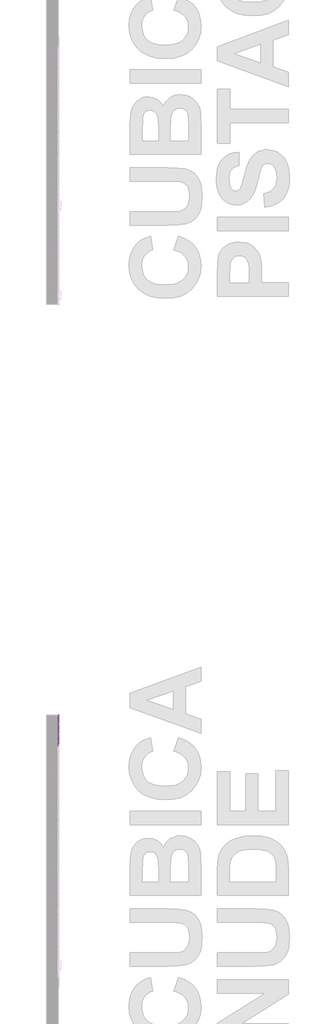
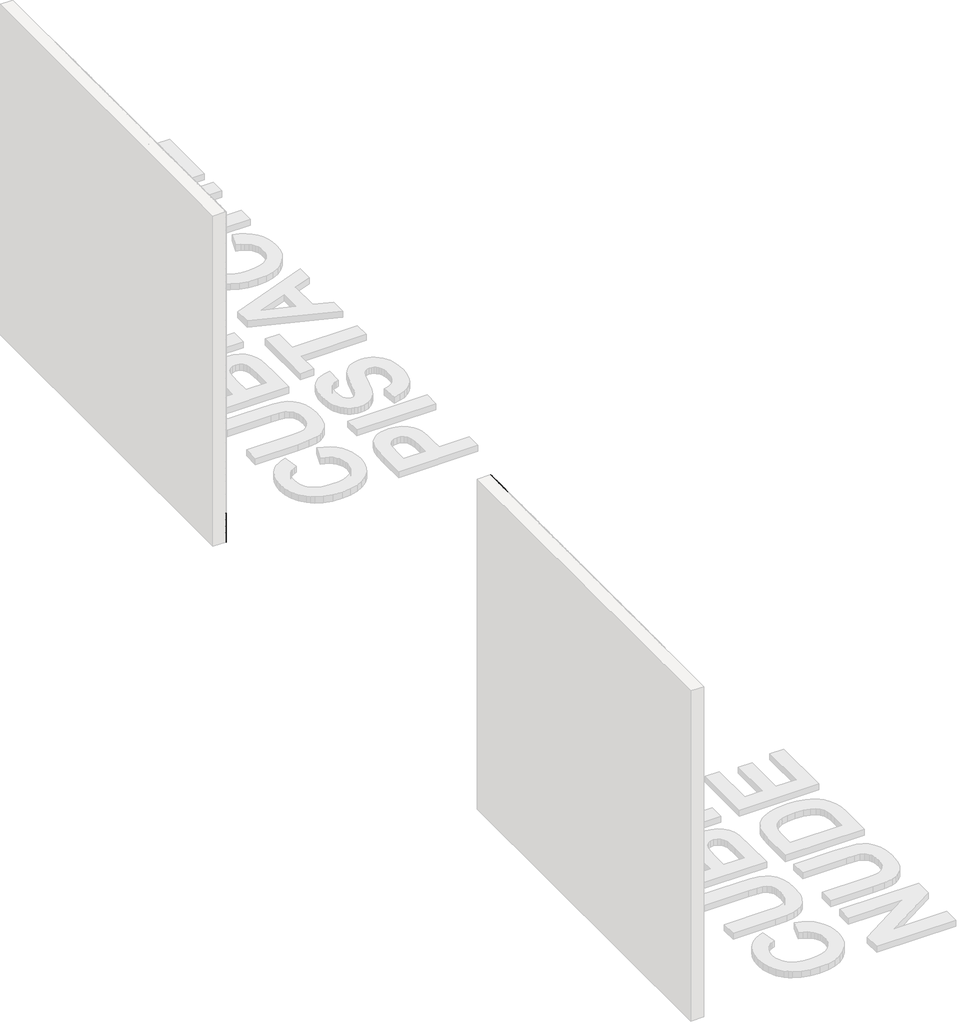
# One storey, part 73 of 121: 141 proxies.
"""IFC4 building model written with IfcOpenShell, lengths in millimetres."""

from ifc_helpers import new_model, si_unit, origin, place, context, project, spatial, transform, mapped, element, save
from components import generic_models_b2b2c5c1, generic_models_9bf73f6f, generic_models_5d175859, generic_models_7dea52c4, generic_models_3c04e8e5, generic_models_61989c10, generic_models_336a48c1, generic_models_65d4feed, generic_models_3c364290, generic_models_b212a934, generic_models_b652511d, generic_models_39246dda, generic_models_45888c4d, generic_models_021229c9, generic_models_95f85f1d

model = new_model("IFC4")

# Units and contexts
model_context = context("Model", 3, world=origin())
ifc_project = project(units=[si_unit("LENGTHUNIT", "METRE", prefix="MILLI")], contexts=[model_context])

# Site, building, storey
site = spatial("IfcSite", under=ifc_project)
building = spatial("IfcBuilding", under=site)
storey = spatial("IfcBuildingStorey", under=building, Name="PORTOBELLO - SHOWROOM", Elevation=0.0)

# Proxies
placement = place(None, origin())
generic_models_shape = generic_models_b2b2c5c1(model_context)
element("IfcBuildingElementProxy", 1, Name="PBSHOP - CUBICA NUDE 4,8X8,3 : CUBICA NUDE - POSIÇÃO 01", ObjectType="PBSHOP - CUBICA NUDE 4,8X8,3 : CUBICA NUDE - POSIÇÃO 01", at=placement, inside=storey, context=model_context, shape_type="MappedRepresentation", body=[
    mapped(generic_models_shape, transform((150369.5341846, 9076.3061883, 1697.0495727), x_axis=(0.0, 1.0, 0.0), y_axis=(0.0, 0.0, 1.0), z_axis=(1.0, 0.0, 0.0))),
])
element("IfcBuildingElementProxy", 2, Name="PBSHOP - CUBICA NUDE 4,8X8,3 : CUBICA NUDE - POSIÇÃO 01", ObjectType="PBSHOP - CUBICA NUDE 4,8X8,3 : CUBICA NUDE - POSIÇÃO 01", at=placement, inside=storey, context=model_context, shape_type="MappedRepresentation", body=[
    mapped(generic_models_shape, transform((150369.5341846, 9167.1454575, 1697.0495727), x_axis=(0.0, 1.0, 0.0), y_axis=(0.0, 0.0, 1.0), z_axis=(1.0, 0.0, 0.0))),
])
element("IfcBuildingElementProxy", 3, Name="PBSHOP - CUBICA NUDE 4,8X8,3 : CUBICA NUDE - POSIÇÃO 01", ObjectType="PBSHOP - CUBICA NUDE 4,8X8,3 : CUBICA NUDE - POSIÇÃO 01", at=placement, inside=storey, context=model_context, shape_type="MappedRepresentation", body=[
    mapped(generic_models_shape, transform((150369.5341846, 9030.8865536, 1775.984211), x_axis=(0.0, 1.0, 0.0), y_axis=(0.0, 0.0, 1.0), z_axis=(1.0, 0.0, 0.0))),
])
element("IfcBuildingElementProxy", 4, Name="PBSHOP - CUBICA NUDE 4,8X8,3 : CUBICA NUDE - POSIÇÃO 01", ObjectType="PBSHOP - CUBICA NUDE 4,8X8,3 : CUBICA NUDE - POSIÇÃO 01", at=placement, inside=storey, context=model_context, shape_type="MappedRepresentation", body=[
    mapped(generic_models_shape, transform((150369.5341846, 9121.7258229, 1775.984211), x_axis=(0.0, 1.0, 0.0), y_axis=(0.0, 0.0, 1.0), z_axis=(1.0, 0.0, 0.0))),
])
element("IfcBuildingElementProxy", 5, Name="PBSHOP - CUBICA NUDE 4,8X8,3 : CUBICA NUDE - POSIÇÃO 01", ObjectType="PBSHOP - CUBICA NUDE 4,8X8,3 : CUBICA NUDE - POSIÇÃO 01", at=placement, inside=storey, context=model_context, shape_type="MappedRepresentation", body=[
    mapped(generic_models_shape, transform((150369.5341846, 9076.3061883, 1854.9188494), x_axis=(0.0, 1.0, 0.0), y_axis=(0.0, 0.0, 1.0), z_axis=(1.0, 0.0, 0.0))),
])
element("IfcBuildingElementProxy", 6, Name="PBSHOP - CUBICA NUDE 4,8X8,3 : CUBICA NUDE - POSIÇÃO 01", ObjectType="PBSHOP - CUBICA NUDE 4,8X8,3 : CUBICA NUDE - POSIÇÃO 01", at=placement, inside=storey, context=model_context, shape_type="MappedRepresentation", body=[
    mapped(generic_models_shape, transform((150369.5341846, 9167.1454575, 1854.9188494), x_axis=(0.0, 1.0, 0.0), y_axis=(0.0, 0.0, 1.0), z_axis=(1.0, 0.0, 0.0))),
])
element("IfcBuildingElementProxy", 7, Name="PBSHOP - CUBICA NUDE 4,8X8,3 : CUBICA NUDE - POSIÇÃO 01", ObjectType="PBSHOP - CUBICA NUDE 4,8X8,3 : CUBICA NUDE - POSIÇÃO 01", at=placement, inside=storey, context=model_context, shape_type="MappedRepresentation", body=[
    mapped(generic_models_shape, transform((150369.5341846, 9030.8865536, 1933.8534878), x_axis=(0.0, 1.0, 0.0), y_axis=(0.0, 0.0, 1.0), z_axis=(1.0, 0.0, 0.0))),
])
element("IfcBuildingElementProxy", 8, Name="PBSHOP - CUBICA NUDE 4,8X8,3 : CUBICA NUDE - POSIÇÃO 01", ObjectType="PBSHOP - CUBICA NUDE 4,8X8,3 : CUBICA NUDE - POSIÇÃO 01", at=placement, inside=storey, context=model_context, shape_type="MappedRepresentation", body=[
    mapped(generic_models_shape, transform((150369.5341846, 9121.7258229, 1933.8534878), x_axis=(0.0, 1.0, 0.0), y_axis=(0.0, 0.0, 1.0), z_axis=(1.0, 0.0, 0.0))),
])
element("IfcBuildingElementProxy", 9, Name="PBSHOP - CUBICA NUDE 4,8X8,3 : CUBICA NUDE - POSIÇÃO 01", ObjectType="PBSHOP - CUBICA NUDE 4,8X8,3 : CUBICA NUDE - POSIÇÃO 01", at=placement, inside=storey, context=model_context, shape_type="MappedRepresentation", body=[
    mapped(generic_models_shape, transform((150369.5341846, 9076.3061883, 2012.7881262), x_axis=(0.0, 1.0, 0.0), y_axis=(0.0, 0.0, 1.0), z_axis=(1.0, 0.0, 0.0))),
])
element("IfcBuildingElementProxy", 10, Name="PBSHOP - CUBICA NUDE 4,8X8,3 : CUBICA NUDE - POSIÇÃO 01", ObjectType="PBSHOP - CUBICA NUDE 4,8X8,3 : CUBICA NUDE - POSIÇÃO 01", at=placement, inside=storey, context=model_context, shape_type="MappedRepresentation", body=[
    mapped(generic_models_shape, transform((150369.5341846, 9167.1454575, 2012.7881262), x_axis=(0.0, 1.0, 0.0), y_axis=(0.0, 0.0, 1.0), z_axis=(1.0, 0.0, 0.0))),
])
element("IfcBuildingElementProxy", 11, Name="PBSHOP - CUBICA NUDE 4,8X8,3 : CUBICA NUDE - POSIÇÃO 01", ObjectType="PBSHOP - CUBICA NUDE 4,8X8,3 : CUBICA NUDE - POSIÇÃO 01", at=placement, inside=storey, context=model_context, shape_type="MappedRepresentation", body=[
    mapped(generic_models_shape, transform((150369.5341846, 9030.8865536, 2091.7227645), x_axis=(0.0, 1.0, 0.0), y_axis=(0.0, 0.0, 1.0), z_axis=(1.0, 0.0, 0.0))),
])
element("IfcBuildingElementProxy", 12, Name="PBSHOP - CUBICA NUDE 4,8X8,3 : CUBICA NUDE - POSIÇÃO 01", ObjectType="PBSHOP - CUBICA NUDE 4,8X8,3 : CUBICA NUDE - POSIÇÃO 01", at=placement, inside=storey, context=model_context, shape_type="MappedRepresentation", body=[
    mapped(generic_models_shape, transform((150369.5341846, 9121.7258229, 2091.7227645), x_axis=(0.0, 1.0, 0.0), y_axis=(0.0, 0.0, 1.0), z_axis=(1.0, 0.0, 0.0))),
])
element("IfcBuildingElementProxy", 13, Name="PBSHOP - CUBICA NUDE 4,8X8,3 : CUBICA NUDE - POSIÇÃO 01", ObjectType="PBSHOP - CUBICA NUDE 4,8X8,3 : CUBICA NUDE - POSIÇÃO 01", at=placement, inside=storey, context=model_context, shape_type="MappedRepresentation", body=[
    mapped(generic_models_shape, transform((150369.5341846, 9076.3061883, 2170.6574029), x_axis=(0.0, 1.0, 0.0), y_axis=(0.0, 0.0, 1.0), z_axis=(1.0, 0.0, 0.0))),
])
element("IfcBuildingElementProxy", 14, Name="PBSHOP - CUBICA NUDE 4,8X8,3 : CUBICA NUDE - POSIÇÃO 01", ObjectType="PBSHOP - CUBICA NUDE 4,8X8,3 : CUBICA NUDE - POSIÇÃO 01", at=placement, inside=storey, context=model_context, shape_type="MappedRepresentation", body=[
    mapped(generic_models_shape, transform((150369.5341846, 9167.1454575, 2170.6574029), x_axis=(0.0, 1.0, 0.0), y_axis=(0.0, 0.0, 1.0), z_axis=(1.0, 0.0, 0.0))),
])
element("IfcBuildingElementProxy", 15, Name="PBSHOP - CUBICA NUDE 4,8X8,3 : CUBICA NUDE - POSIÇÃO 01", ObjectType="PBSHOP - CUBICA NUDE 4,8X8,3 : CUBICA NUDE - POSIÇÃO 01", at=placement, inside=storey, context=model_context, shape_type="MappedRepresentation", body=[
    mapped(generic_models_shape, transform((150369.5341846, 9030.8865536, 2249.5920413), x_axis=(0.0, 1.0, 0.0), y_axis=(0.0, 0.0, 1.0), z_axis=(1.0, 0.0, 0.0))),
])
element("IfcBuildingElementProxy", 16, Name="PBSHOP - CUBICA NUDE 4,8X8,3 : CUBICA NUDE - POSIÇÃO 01", ObjectType="PBSHOP - CUBICA NUDE 4,8X8,3 : CUBICA NUDE - POSIÇÃO 01", at=placement, inside=storey, context=model_context, shape_type="MappedRepresentation", body=[
    mapped(generic_models_shape, transform((150369.5341846, 9121.7258229, 2249.5920413), x_axis=(0.0, 1.0, 0.0), y_axis=(0.0, 0.0, 1.0), z_axis=(1.0, 0.0, 0.0))),
])
element("IfcBuildingElementProxy", 17, Name="PBSHOP - CUBICA NUDE 4,8X8,3 : CUBICA NUDE - POSIÇÃO 01", ObjectType="PBSHOP - CUBICA NUDE 4,8X8,3 : CUBICA NUDE - POSIÇÃO 01", at=placement, inside=storey, context=model_context, shape_type="MappedRepresentation", body=[
    mapped(generic_models_shape, transform((150369.5341846, 9076.3061883, 2328.5266797), x_axis=(0.0, 1.0, 0.0), y_axis=(0.0, 0.0, 1.0), z_axis=(1.0, 0.0, 0.0))),
])
element("IfcBuildingElementProxy", 18, Name="PBSHOP - CUBICA NUDE 4,8X8,3 : CUBICA NUDE - POSIÇÃO 01", ObjectType="PBSHOP - CUBICA NUDE 4,8X8,3 : CUBICA NUDE - POSIÇÃO 01", at=placement, inside=storey, context=model_context, shape_type="MappedRepresentation", body=[
    mapped(generic_models_shape, transform((150369.5341846, 9167.1454575, 2328.5266797), x_axis=(0.0, 1.0, 0.0), y_axis=(0.0, 0.0, 1.0), z_axis=(1.0, 0.0, 0.0))),
])
element("IfcBuildingElementProxy", 19, Name="PBSHOP - CUBICA NUDE 4,8X8,3 : CUBICA NUDE - POSIÇÃO 01", ObjectType="PBSHOP - CUBICA NUDE 4,8X8,3 : CUBICA NUDE - POSIÇÃO 01", at=placement, inside=storey, context=model_context, shape_type="MappedRepresentation", body=[
    mapped(generic_models_shape, transform((150369.5341846, 9030.8865536, 2407.461318), x_axis=(0.0, 1.0, 0.0), y_axis=(0.0, 0.0, 1.0), z_axis=(1.0, 0.0, 0.0))),
])
element("IfcBuildingElementProxy", 20, Name="PBSHOP - CUBICA NUDE 4,8X8,3 : CUBICA NUDE - POSIÇÃO 01", ObjectType="PBSHOP - CUBICA NUDE 4,8X8,3 : CUBICA NUDE - POSIÇÃO 01", at=placement, inside=storey, context=model_context, shape_type="MappedRepresentation", body=[
    mapped(generic_models_shape, transform((150369.5341846, 9121.7258229, 2407.461318), x_axis=(0.0, 1.0, 0.0), y_axis=(0.0, 0.0, 1.0), z_axis=(1.0, 0.0, 0.0))),
])
element("IfcBuildingElementProxy", 21, Name="PBSHOP - CUBICA NUDE 4,8X8,3 : CUBICA NUDE - POSIÇÃO 01", ObjectType="PBSHOP - CUBICA NUDE 4,8X8,3 : CUBICA NUDE - POSIÇÃO 01", at=placement, inside=storey, context=model_context, shape_type="MappedRepresentation", body=[
    mapped(generic_models_shape, transform((150369.5341846, 9076.3061883, 2486.3959564), x_axis=(0.0, 1.0, 0.0), y_axis=(0.0, 0.0, 1.0), z_axis=(1.0, 0.0, 0.0))),
])
element("IfcBuildingElementProxy", 22, Name="PBSHOP - CUBICA NUDE 4,8X8,3 : CUBICA NUDE - POSIÇÃO 01", ObjectType="PBSHOP - CUBICA NUDE 4,8X8,3 : CUBICA NUDE - POSIÇÃO 01", at=placement, inside=storey, context=model_context, shape_type="MappedRepresentation", body=[
    mapped(generic_models_shape, transform((150369.5341846, 9167.1454575, 2486.3959564), x_axis=(0.0, 1.0, 0.0), y_axis=(0.0, 0.0, 1.0), z_axis=(1.0, 0.0, 0.0))),
])
element("IfcBuildingElementProxy", 23, Name="PBSHOP - CUBICA NUDE 4,8X8,3 : CUBICA NUDE - POSIÇÃO 01", ObjectType="PBSHOP - CUBICA NUDE 4,8X8,3 : CUBICA NUDE - POSIÇÃO 01", at=placement, inside=storey, context=model_context, shape_type="MappedRepresentation", body=[
    mapped(generic_models_shape, transform((150369.5341846, 9030.8865536, 2565.3305948), x_axis=(0.0, 1.0, 0.0), y_axis=(0.0, 0.0, 1.0), z_axis=(1.0, 0.0, 0.0))),
])
element("IfcBuildingElementProxy", 24, Name="PBSHOP - CUBICA NUDE 4,8X8,3 : CUBICA NUDE - POSIÇÃO 01", ObjectType="PBSHOP - CUBICA NUDE 4,8X8,3 : CUBICA NUDE - POSIÇÃO 01", at=placement, inside=storey, context=model_context, shape_type="MappedRepresentation", body=[
    mapped(generic_models_shape, transform((150369.5341846, 9121.7258229, 2565.3305948), x_axis=(0.0, 1.0, 0.0), y_axis=(0.0, 0.0, 1.0), z_axis=(1.0, 0.0, 0.0))),
])
element("IfcBuildingElementProxy", 25, Name="PBSHOP - CUBICA NUDE 4,8X8,3 : CUBICA NUDE - POSIÇÃO 01", ObjectType="PBSHOP - CUBICA NUDE 4,8X8,3 : CUBICA NUDE - POSIÇÃO 01", at=placement, inside=storey, context=model_context, shape_type="MappedRepresentation", body=[
    mapped(generic_models_shape, transform((150369.5341846, 9076.3061883, 2644.2652332), x_axis=(0.0, 1.0, 0.0), y_axis=(0.0, 0.0, 1.0), z_axis=(1.0, 0.0, 0.0))),
])
element("IfcBuildingElementProxy", 26, Name="PBSHOP - CUBICA NUDE 4,8X8,3 : CUBICA NUDE - POSIÇÃO 01", ObjectType="PBSHOP - CUBICA NUDE 4,8X8,3 : CUBICA NUDE - POSIÇÃO 01", at=placement, inside=storey, context=model_context, shape_type="MappedRepresentation", body=[
    mapped(generic_models_shape, transform((150369.5341846, 9167.1454575, 2644.2652332), x_axis=(0.0, 1.0, 0.0), y_axis=(0.0, 0.0, 1.0), z_axis=(1.0, 0.0, 0.0))),
])
generic_models_2_shape = generic_models_9bf73f6f(model_context)
element("IfcBuildingElementProxy", 27, Name="PBSHOP - CUBICA NUDE 4,8X8,3 : CUBICA NUDE - POSIÇÃO 03", ObjectType="PBSHOP - CUBICA NUDE 4,8X8,3 : CUBICA NUDE - POSIÇÃO 03", at=placement, inside=storey, context=model_context, shape_type="MappedRepresentation", body=[
    mapped(generic_models_2_shape, transform((150369.5341846, 9099.0181647, 1578.6064047), x_axis=(0.0, 1.0, 0.0), y_axis=(0.0, 0.0, 1.0), z_axis=(1.0, 0.0, 0.0))),
])
element("IfcBuildingElementProxy", 28, Name="PBSHOP - CUBICA NUDE 4,8X8,3 : CUBICA NUDE - POSIÇÃO 03", ObjectType="PBSHOP - CUBICA NUDE 4,8X8,3 : CUBICA NUDE - POSIÇÃO 03", at=placement, inside=storey, context=model_context, shape_type="MappedRepresentation", body=[
    mapped(generic_models_2_shape, transform((150369.5341846, 9053.5985301, 1657.5410431), x_axis=(0.0, 1.0, 0.0), y_axis=(0.0, 0.0, 1.0), z_axis=(1.0, 0.0, 0.0))),
])
element("IfcBuildingElementProxy", 29, Name="PBSHOP - CUBICA NUDE 4,8X8,3 : CUBICA NUDE - POSIÇÃO 03", ObjectType="PBSHOP - CUBICA NUDE 4,8X8,3 : CUBICA NUDE - POSIÇÃO 03", at=placement, inside=storey, context=model_context, shape_type="MappedRepresentation", body=[
    mapped(generic_models_2_shape, transform((150369.5341846, 9144.4377994, 1657.5410431), x_axis=(0.0, 1.0, 0.0), y_axis=(0.0, 0.0, 1.0), z_axis=(1.0, 0.0, 0.0))),
])
element("IfcBuildingElementProxy", 30, Name="PBSHOP - CUBICA NUDE 4,8X8,3 : CUBICA NUDE - POSIÇÃO 03", ObjectType="PBSHOP - CUBICA NUDE 4,8X8,3 : CUBICA NUDE - POSIÇÃO 03", at=placement, inside=storey, context=model_context, shape_type="MappedRepresentation", body=[
    mapped(generic_models_2_shape, transform((150369.5341846, 9008.1788955, 1736.4756814), x_axis=(0.0, 1.0, 0.0), y_axis=(0.0, 0.0, 1.0), z_axis=(1.0, 0.0, 0.0))),
])
element("IfcBuildingElementProxy", 31, Name="PBSHOP - CUBICA NUDE 4,8X8,3 : CUBICA NUDE - POSIÇÃO 03", ObjectType="PBSHOP - CUBICA NUDE 4,8X8,3 : CUBICA NUDE - POSIÇÃO 03", at=placement, inside=storey, context=model_context, shape_type="MappedRepresentation", body=[
    mapped(generic_models_2_shape, transform((150369.5341846, 9099.0181647, 1736.4756814), x_axis=(0.0, 1.0, 0.0), y_axis=(0.0, 0.0, 1.0), z_axis=(1.0, 0.0, 0.0))),
])
element("IfcBuildingElementProxy", 32, Name="PBSHOP - CUBICA NUDE 4,8X8,3 : CUBICA NUDE - POSIÇÃO 03", ObjectType="PBSHOP - CUBICA NUDE 4,8X8,3 : CUBICA NUDE - POSIÇÃO 03", at=placement, inside=storey, context=model_context, shape_type="MappedRepresentation", body=[
    mapped(generic_models_2_shape, transform((150369.5341846, 9053.5985301, 1815.4103198), x_axis=(0.0, 1.0, 0.0), y_axis=(0.0, 0.0, 1.0), z_axis=(1.0, 0.0, 0.0))),
])
element("IfcBuildingElementProxy", 33, Name="PBSHOP - CUBICA NUDE 4,8X8,3 : CUBICA NUDE - POSIÇÃO 03", ObjectType="PBSHOP - CUBICA NUDE 4,8X8,3 : CUBICA NUDE - POSIÇÃO 03", at=placement, inside=storey, context=model_context, shape_type="MappedRepresentation", body=[
    mapped(generic_models_2_shape, transform((150369.5341846, 9144.4377994, 1815.4103198), x_axis=(0.0, 1.0, 0.0), y_axis=(0.0, 0.0, 1.0), z_axis=(1.0, 0.0, 0.0))),
])
element("IfcBuildingElementProxy", 34, Name="PBSHOP - CUBICA NUDE 4,8X8,3 : CUBICA NUDE - POSIÇÃO 03", ObjectType="PBSHOP - CUBICA NUDE 4,8X8,3 : CUBICA NUDE - POSIÇÃO 03", at=placement, inside=storey, context=model_context, shape_type="MappedRepresentation", body=[
    mapped(generic_models_2_shape, transform((150369.5341846, 9008.1788955, 1894.3449582), x_axis=(0.0, 1.0, 0.0), y_axis=(0.0, 0.0, 1.0), z_axis=(1.0, 0.0, 0.0))),
])
element("IfcBuildingElementProxy", 35, Name="PBSHOP - CUBICA NUDE 4,8X8,3 : CUBICA NUDE - POSIÇÃO 03", ObjectType="PBSHOP - CUBICA NUDE 4,8X8,3 : CUBICA NUDE - POSIÇÃO 03", at=placement, inside=storey, context=model_context, shape_type="MappedRepresentation", body=[
    mapped(generic_models_2_shape, transform((150369.5341846, 9099.0181647, 1894.3449582), x_axis=(0.0, 1.0, 0.0), y_axis=(0.0, 0.0, 1.0), z_axis=(1.0, 0.0, 0.0))),
])
element("IfcBuildingElementProxy", 36, Name="PBSHOP - CUBICA NUDE 4,8X8,3 : CUBICA NUDE - POSIÇÃO 03", ObjectType="PBSHOP - CUBICA NUDE 4,8X8,3 : CUBICA NUDE - POSIÇÃO 03", at=placement, inside=storey, context=model_context, shape_type="MappedRepresentation", body=[
    mapped(generic_models_2_shape, transform((150369.5341846, 9053.5985301, 1973.2795966), x_axis=(0.0, 1.0, 0.0), y_axis=(0.0, 0.0, 1.0), z_axis=(1.0, 0.0, 0.0))),
])
element("IfcBuildingElementProxy", 37, Name="PBSHOP - CUBICA NUDE 4,8X8,3 : CUBICA NUDE - POSIÇÃO 03", ObjectType="PBSHOP - CUBICA NUDE 4,8X8,3 : CUBICA NUDE - POSIÇÃO 03", at=placement, inside=storey, context=model_context, shape_type="MappedRepresentation", body=[
    mapped(generic_models_2_shape, transform((150369.5341846, 9144.4377994, 1973.2795966), x_axis=(0.0, 1.0, 0.0), y_axis=(0.0, 0.0, 1.0), z_axis=(1.0, 0.0, 0.0))),
])
element("IfcBuildingElementProxy", 38, Name="PBSHOP - CUBICA NUDE 4,8X8,3 : CUBICA NUDE - POSIÇÃO 03", ObjectType="PBSHOP - CUBICA NUDE 4,8X8,3 : CUBICA NUDE - POSIÇÃO 03", at=placement, inside=storey, context=model_context, shape_type="MappedRepresentation", body=[
    mapped(generic_models_2_shape, transform((150369.5341846, 9008.1788955, 2052.2142349), x_axis=(0.0, 1.0, 0.0), y_axis=(0.0, 0.0, 1.0), z_axis=(1.0, 0.0, 0.0))),
])
element("IfcBuildingElementProxy", 39, Name="PBSHOP - CUBICA NUDE 4,8X8,3 : CUBICA NUDE - POSIÇÃO 03", ObjectType="PBSHOP - CUBICA NUDE 4,8X8,3 : CUBICA NUDE - POSIÇÃO 03", at=placement, inside=storey, context=model_context, shape_type="MappedRepresentation", body=[
    mapped(generic_models_2_shape, transform((150369.5341846, 9099.0181647, 2052.2142349), x_axis=(0.0, 1.0, 0.0), y_axis=(0.0, 0.0, 1.0), z_axis=(1.0, 0.0, 0.0))),
])
element("IfcBuildingElementProxy", 40, Name="PBSHOP - CUBICA NUDE 4,8X8,3 : CUBICA NUDE - POSIÇÃO 03", ObjectType="PBSHOP - CUBICA NUDE 4,8X8,3 : CUBICA NUDE - POSIÇÃO 03", at=placement, inside=storey, context=model_context, shape_type="MappedRepresentation", body=[
    mapped(generic_models_2_shape, transform((150369.5341846, 9053.5985301, 2131.1488733), x_axis=(0.0, 1.0, 0.0), y_axis=(0.0, 0.0, 1.0), z_axis=(1.0, 0.0, 0.0))),
])
element("IfcBuildingElementProxy", 41, Name="PBSHOP - CUBICA NUDE 4,8X8,3 : CUBICA NUDE - POSIÇÃO 03", ObjectType="PBSHOP - CUBICA NUDE 4,8X8,3 : CUBICA NUDE - POSIÇÃO 03", at=placement, inside=storey, context=model_context, shape_type="MappedRepresentation", body=[
    mapped(generic_models_2_shape, transform((150369.5341846, 9144.4377994, 2131.1488733), x_axis=(0.0, 1.0, 0.0), y_axis=(0.0, 0.0, 1.0), z_axis=(1.0, 0.0, 0.0))),
])
element("IfcBuildingElementProxy", 42, Name="PBSHOP - CUBICA NUDE 4,8X8,3 : CUBICA NUDE - POSIÇÃO 03", ObjectType="PBSHOP - CUBICA NUDE 4,8X8,3 : CUBICA NUDE - POSIÇÃO 03", at=placement, inside=storey, context=model_context, shape_type="MappedRepresentation", body=[
    mapped(generic_models_2_shape, transform((150369.5341846, 9008.1788955, 2210.0835117), x_axis=(0.0, 1.0, 0.0), y_axis=(0.0, 0.0, 1.0), z_axis=(1.0, 0.0, 0.0))),
])
element("IfcBuildingElementProxy", 43, Name="PBSHOP - CUBICA NUDE 4,8X8,3 : CUBICA NUDE - POSIÇÃO 03", ObjectType="PBSHOP - CUBICA NUDE 4,8X8,3 : CUBICA NUDE - POSIÇÃO 03", at=placement, inside=storey, context=model_context, shape_type="MappedRepresentation", body=[
    mapped(generic_models_2_shape, transform((150369.5341846, 9099.0181647, 2210.0835117), x_axis=(0.0, 1.0, 0.0), y_axis=(0.0, 0.0, 1.0), z_axis=(1.0, 0.0, 0.0))),
])
element("IfcBuildingElementProxy", 44, Name="PBSHOP - CUBICA NUDE 4,8X8,3 : CUBICA NUDE - POSIÇÃO 03", ObjectType="PBSHOP - CUBICA NUDE 4,8X8,3 : CUBICA NUDE - POSIÇÃO 03", at=placement, inside=storey, context=model_context, shape_type="MappedRepresentation", body=[
    mapped(generic_models_2_shape, transform((150369.5341846, 9053.5985301, 2289.0181501), x_axis=(0.0, 1.0, 0.0), y_axis=(0.0, 0.0, 1.0), z_axis=(1.0, 0.0, 0.0))),
])
element("IfcBuildingElementProxy", 45, Name="PBSHOP - CUBICA NUDE 4,8X8,3 : CUBICA NUDE - POSIÇÃO 03", ObjectType="PBSHOP - CUBICA NUDE 4,8X8,3 : CUBICA NUDE - POSIÇÃO 03", at=placement, inside=storey, context=model_context, shape_type="MappedRepresentation", body=[
    mapped(generic_models_2_shape, transform((150369.5341846, 9144.4377994, 2289.0181501), x_axis=(0.0, 1.0, 0.0), y_axis=(0.0, 0.0, 1.0), z_axis=(1.0, 0.0, 0.0))),
])
element("IfcBuildingElementProxy", 46, Name="PBSHOP - CUBICA NUDE 4,8X8,3 : CUBICA NUDE - POSIÇÃO 03", ObjectType="PBSHOP - CUBICA NUDE 4,8X8,3 : CUBICA NUDE - POSIÇÃO 03", at=placement, inside=storey, context=model_context, shape_type="MappedRepresentation", body=[
    mapped(generic_models_2_shape, transform((150369.5341846, 9008.1788955, 2367.9527884), x_axis=(0.0, 1.0, 0.0), y_axis=(0.0, 0.0, 1.0), z_axis=(1.0, 0.0, 0.0))),
])
element("IfcBuildingElementProxy", 47, Name="PBSHOP - CUBICA NUDE 4,8X8,3 : CUBICA NUDE - POSIÇÃO 03", ObjectType="PBSHOP - CUBICA NUDE 4,8X8,3 : CUBICA NUDE - POSIÇÃO 03", at=placement, inside=storey, context=model_context, shape_type="MappedRepresentation", body=[
    mapped(generic_models_2_shape, transform((150369.5341846, 9099.0181647, 2367.9527884), x_axis=(0.0, 1.0, 0.0), y_axis=(0.0, 0.0, 1.0), z_axis=(1.0, 0.0, 0.0))),
])
element("IfcBuildingElementProxy", 48, Name="PBSHOP - CUBICA NUDE 4,8X8,3 : CUBICA NUDE - POSIÇÃO 03", ObjectType="PBSHOP - CUBICA NUDE 4,8X8,3 : CUBICA NUDE - POSIÇÃO 03", at=placement, inside=storey, context=model_context, shape_type="MappedRepresentation", body=[
    mapped(generic_models_2_shape, transform((150369.5341846, 9053.5985301, 2446.8874268), x_axis=(0.0, 1.0, 0.0), y_axis=(0.0, 0.0, 1.0), z_axis=(1.0, 0.0, 0.0))),
])
element("IfcBuildingElementProxy", 49, Name="PBSHOP - CUBICA NUDE 4,8X8,3 : CUBICA NUDE - POSIÇÃO 03", ObjectType="PBSHOP - CUBICA NUDE 4,8X8,3 : CUBICA NUDE - POSIÇÃO 03", at=placement, inside=storey, context=model_context, shape_type="MappedRepresentation", body=[
    mapped(generic_models_2_shape, transform((150369.5341846, 9144.4377994, 2446.8874268), x_axis=(0.0, 1.0, 0.0), y_axis=(0.0, 0.0, 1.0), z_axis=(1.0, 0.0, 0.0))),
])
element("IfcBuildingElementProxy", 50, Name="PBSHOP - CUBICA NUDE 4,8X8,3 : CUBICA NUDE - POSIÇÃO 03", ObjectType="PBSHOP - CUBICA NUDE 4,8X8,3 : CUBICA NUDE - POSIÇÃO 03", at=placement, inside=storey, context=model_context, shape_type="MappedRepresentation", body=[
    mapped(generic_models_2_shape, transform((150369.5341846, 9008.1788955, 2525.8220652), x_axis=(0.0, 1.0, 0.0), y_axis=(0.0, 0.0, 1.0), z_axis=(1.0, 0.0, 0.0))),
])
element("IfcBuildingElementProxy", 51, Name="PBSHOP - CUBICA NUDE 4,8X8,3 : CUBICA NUDE - POSIÇÃO 03", ObjectType="PBSHOP - CUBICA NUDE 4,8X8,3 : CUBICA NUDE - POSIÇÃO 03", at=placement, inside=storey, context=model_context, shape_type="MappedRepresentation", body=[
    mapped(generic_models_2_shape, transform((150369.5341846, 9099.0181647, 2525.8220652), x_axis=(0.0, 1.0, 0.0), y_axis=(0.0, 0.0, 1.0), z_axis=(1.0, 0.0, 0.0))),
])
element("IfcBuildingElementProxy", 52, Name="PBSHOP - CUBICA NUDE 4,8X8,3 : CUBICA NUDE - POSIÇÃO 03", ObjectType="PBSHOP - CUBICA NUDE 4,8X8,3 : CUBICA NUDE - POSIÇÃO 03", at=placement, inside=storey, context=model_context, shape_type="MappedRepresentation", body=[
    mapped(generic_models_2_shape, transform((150369.5341846, 9053.5985301, 2604.7567035), x_axis=(0.0, 1.0, 0.0), y_axis=(0.0, 0.0, 1.0), z_axis=(1.0, 0.0, 0.0))),
])
element("IfcBuildingElementProxy", 53, Name="PBSHOP - CUBICA NUDE 4,8X8,3 : CUBICA NUDE - POSIÇÃO 03", ObjectType="PBSHOP - CUBICA NUDE 4,8X8,3 : CUBICA NUDE - POSIÇÃO 03", at=placement, inside=storey, context=model_context, shape_type="MappedRepresentation", body=[
    mapped(generic_models_2_shape, transform((150369.5341846, 9144.4377994, 2604.7567035), x_axis=(0.0, 1.0, 0.0), y_axis=(0.0, 0.0, 1.0), z_axis=(1.0, 0.0, 0.0))),
])
element("IfcBuildingElementProxy", 54, Name="PBSHOP - CUBICA PISTACHE 4,8X8,3 : CUBICA PISTACHE - POSIÇÃO 01", ObjectType="PBSHOP - CUBICA PISTACHE 4,8X8,3 : CUBICA PISTACHE - POSIÇÃO 01", at=placement, inside=storey, context=model_context, shape_type="MappedRepresentation", body=[
    mapped(generic_models_shape, transform((150369.5341846, 12796.5477456, 39.4221668), x_axis=(0.0, 1.0, 0.0), y_axis=(0.0, 0.0, 1.0), z_axis=(1.0, 0.0, 0.0))),
])
element("IfcBuildingElementProxy", 55, Name="PBSHOP - CUBICA PISTACHE 4,8X8,3 : CUBICA PISTACHE - POSIÇÃO 01", ObjectType="PBSHOP - CUBICA PISTACHE 4,8X8,3 : CUBICA PISTACHE - POSIÇÃO 01", at=placement, inside=storey, context=model_context, shape_type="MappedRepresentation", body=[
    mapped(generic_models_shape, transform((150369.5341846, 12887.3870148, 39.4221668), x_axis=(0.0, 1.0, 0.0), y_axis=(0.0, 0.0, 1.0), z_axis=(1.0, 0.0, 0.0))),
])
element("IfcBuildingElementProxy", 56, Name="PBSHOP - CUBICA PISTACHE 4,8X8,3 : CUBICA PISTACHE - POSIÇÃO 01", ObjectType="PBSHOP - CUBICA PISTACHE 4,8X8,3 : CUBICA PISTACHE - POSIÇÃO 01", at=placement, inside=storey, context=model_context, shape_type="MappedRepresentation", body=[
    mapped(generic_models_shape, transform((150369.5341846, 12978.2262841, 39.4221668), x_axis=(0.0, 1.0, 0.0), y_axis=(0.0, 0.0, 1.0), z_axis=(1.0, 0.0, 0.0))),
])
element("IfcBuildingElementProxy", 57, Name="PBSHOP - CUBICA PISTACHE 4,8X8,3 : CUBICA PISTACHE - POSIÇÃO 01", ObjectType="PBSHOP - CUBICA PISTACHE 4,8X8,3 : CUBICA PISTACHE - POSIÇÃO 01", at=placement, inside=storey, context=model_context, shape_type="MappedRepresentation", body=[
    mapped(generic_models_shape, transform((150369.5341846, 12841.9673802, 118.3568052), x_axis=(0.0, 1.0, 0.0), y_axis=(0.0, 0.0, 1.0), z_axis=(1.0, 0.0, 0.0))),
])
element("IfcBuildingElementProxy", 58, Name="PBSHOP - CUBICA PISTACHE 4,8X8,3 : CUBICA PISTACHE - POSIÇÃO 01", ObjectType="PBSHOP - CUBICA PISTACHE 4,8X8,3 : CUBICA PISTACHE - POSIÇÃO 01", at=placement, inside=storey, context=model_context, shape_type="MappedRepresentation", body=[
    mapped(generic_models_shape, transform((150369.5341846, 12932.8066494, 118.3568052), x_axis=(0.0, 1.0, 0.0), y_axis=(0.0, 0.0, 1.0), z_axis=(1.0, 0.0, 0.0))),
])
element("IfcBuildingElementProxy", 59, Name="PBSHOP - CUBICA PISTACHE 4,8X8,3 : CUBICA PISTACHE - POSIÇÃO 01", ObjectType="PBSHOP - CUBICA PISTACHE 4,8X8,3 : CUBICA PISTACHE - POSIÇÃO 01", at=placement, inside=storey, context=model_context, shape_type="MappedRepresentation", body=[
    mapped(generic_models_shape, transform((150369.5341846, 12796.5477456, 197.2914436), x_axis=(0.0, 1.0, 0.0), y_axis=(0.0, 0.0, 1.0), z_axis=(1.0, 0.0, 0.0))),
])
element("IfcBuildingElementProxy", 60, Name="PBSHOP - CUBICA PISTACHE 4,8X8,3 : CUBICA PISTACHE - POSIÇÃO 01", ObjectType="PBSHOP - CUBICA PISTACHE 4,8X8,3 : CUBICA PISTACHE - POSIÇÃO 01", at=placement, inside=storey, context=model_context, shape_type="MappedRepresentation", body=[
    mapped(generic_models_shape, transform((150369.5341846, 12887.3870148, 197.2914436), x_axis=(0.0, 1.0, 0.0), y_axis=(0.0, 0.0, 1.0), z_axis=(1.0, 0.0, 0.0))),
])
element("IfcBuildingElementProxy", 61, Name="PBSHOP - CUBICA PISTACHE 4,8X8,3 : CUBICA PISTACHE - POSIÇÃO 01", ObjectType="PBSHOP - CUBICA PISTACHE 4,8X8,3 : CUBICA PISTACHE - POSIÇÃO 01", at=placement, inside=storey, context=model_context, shape_type="MappedRepresentation", body=[
    mapped(generic_models_shape, transform((150369.5341846, 12978.2262841, 197.2914436), x_axis=(0.0, 1.0, 0.0), y_axis=(0.0, 0.0, 1.0), z_axis=(1.0, 0.0, 0.0))),
])
element("IfcBuildingElementProxy", 62, Name="PBSHOP - CUBICA PISTACHE 4,8X8,3 : CUBICA PISTACHE - POSIÇÃO 01", ObjectType="PBSHOP - CUBICA PISTACHE 4,8X8,3 : CUBICA PISTACHE - POSIÇÃO 01", at=placement, inside=storey, context=model_context, shape_type="MappedRepresentation", body=[
    mapped(generic_models_shape, transform((150369.5341846, 12841.9673802, 276.2260819), x_axis=(0.0, 1.0, 0.0), y_axis=(0.0, 0.0, 1.0), z_axis=(1.0, 0.0, 0.0))),
])
element("IfcBuildingElementProxy", 63, Name="PBSHOP - CUBICA PISTACHE 4,8X8,3 : CUBICA PISTACHE - POSIÇÃO 01", ObjectType="PBSHOP - CUBICA PISTACHE 4,8X8,3 : CUBICA PISTACHE - POSIÇÃO 01", at=placement, inside=storey, context=model_context, shape_type="MappedRepresentation", body=[
    mapped(generic_models_shape, transform((150369.5341846, 12932.8066494, 276.2260819), x_axis=(0.0, 1.0, 0.0), y_axis=(0.0, 0.0, 1.0), z_axis=(1.0, 0.0, 0.0))),
])
element("IfcBuildingElementProxy", 64, Name="PBSHOP - CUBICA PISTACHE 4,8X8,3 : CUBICA PISTACHE - POSIÇÃO 03", ObjectType="PBSHOP - CUBICA PISTACHE 4,8X8,3 : CUBICA PISTACHE - POSIÇÃO 03", at=placement, inside=storey, context=model_context, shape_type="MappedRepresentation", body=[
    mapped(generic_models_2_shape, transform((150369.5341846, 12819.259722, 78.8482756), x_axis=(0.0, 1.0, 0.0), y_axis=(0.0, 0.0, 1.0), z_axis=(1.0, 0.0, 0.0))),
])
element("IfcBuildingElementProxy", 65, Name="PBSHOP - CUBICA PISTACHE 4,8X8,3 : CUBICA PISTACHE - POSIÇÃO 03", ObjectType="PBSHOP - CUBICA PISTACHE 4,8X8,3 : CUBICA PISTACHE - POSIÇÃO 03", at=placement, inside=storey, context=model_context, shape_type="MappedRepresentation", body=[
    mapped(generic_models_2_shape, transform((150369.5341846, 12910.0989913, 78.8482756), x_axis=(0.0, 1.0, 0.0), y_axis=(0.0, 0.0, 1.0), z_axis=(1.0, 0.0, 0.0))),
])
element("IfcBuildingElementProxy", 66, Name="PBSHOP - CUBICA PISTACHE 4,8X8,3 : CUBICA PISTACHE - POSIÇÃO 03", ObjectType="PBSHOP - CUBICA PISTACHE 4,8X8,3 : CUBICA PISTACHE - POSIÇÃO 03", at=placement, inside=storey, context=model_context, shape_type="MappedRepresentation", body=[
    mapped(generic_models_2_shape, transform((150369.5341846, 12864.6793567, 157.7829139), x_axis=(0.0, 1.0, 0.0), y_axis=(0.0, 0.0, 1.0), z_axis=(1.0, 0.0, 0.0))),
])
element("IfcBuildingElementProxy", 67, Name="PBSHOP - CUBICA PISTACHE 4,8X8,3 : CUBICA PISTACHE - POSIÇÃO 03", ObjectType="PBSHOP - CUBICA PISTACHE 4,8X8,3 : CUBICA PISTACHE - POSIÇÃO 03", at=placement, inside=storey, context=model_context, shape_type="MappedRepresentation", body=[
    mapped(generic_models_2_shape, transform((150369.5341846, 12955.5186259, 157.7829139), x_axis=(0.0, 1.0, 0.0), y_axis=(0.0, 0.0, 1.0), z_axis=(1.0, 0.0, 0.0))),
])
generic_models_3_shape = generic_models_5d175859(model_context)
element("IfcBuildingElementProxy", 68, Name="PBSHOP - CUBICA NUDE 4,8X8,3 : CUBICA NUDE - POSIÇÃO 01", ObjectType="PBSHOP - CUBICA NUDE 4,8X8,3 : CUBICA NUDE - POSIÇÃO 01", at=placement, inside=storey, context=model_context, shape_type="MappedRepresentation", body=[
    mapped(generic_models_3_shape, transform((150369.5341846, 9030.890872, 1697.0495727), x_axis=(0.0, -1.0, 0.0), y_axis=(0.0, 0.0, -1.0), z_axis=(1.0, 0.0, 0.0))),
])
element("IfcBuildingElementProxy", 69, Name="PBSHOP - CUBICA NUDE 4,8X8,3 : CUBICA NUDE - POSIÇÃO 01", ObjectType="PBSHOP - CUBICA NUDE 4,8X8,3 : CUBICA NUDE - POSIÇÃO 01", at=placement, inside=storey, context=model_context, shape_type="MappedRepresentation", body=[
    mapped(generic_models_3_shape, transform((150369.5341846, 9121.7301412, 1697.0495727), x_axis=(0.0, -1.0, 0.0), y_axis=(0.0, 0.0, -1.0), z_axis=(1.0, 0.0, 0.0))),
])
element("IfcBuildingElementProxy", 70, Name="PBSHOP - CUBICA NUDE 4,8X8,3 : CUBICA NUDE - POSIÇÃO 01", ObjectType="PBSHOP - CUBICA NUDE 4,8X8,3 : CUBICA NUDE - POSIÇÃO 01", at=placement, inside=storey, context=model_context, shape_type="MappedRepresentation", body=[
    mapped(generic_models_3_shape, transform((150369.5341846, 9076.3105066, 1775.984211), x_axis=(0.0, -1.0, 0.0), y_axis=(0.0, 0.0, -1.0), z_axis=(1.0, 0.0, 0.0))),
])
element("IfcBuildingElementProxy", 71, Name="PBSHOP - CUBICA NUDE 4,8X8,3 : CUBICA NUDE - POSIÇÃO 01", ObjectType="PBSHOP - CUBICA NUDE 4,8X8,3 : CUBICA NUDE - POSIÇÃO 01", at=placement, inside=storey, context=model_context, shape_type="MappedRepresentation", body=[
    mapped(generic_models_3_shape, transform((150369.5341846, 9167.1497758, 1775.984211), x_axis=(0.0, -1.0, 0.0), y_axis=(0.0, 0.0, -1.0), z_axis=(1.0, 0.0, 0.0))),
])
element("IfcBuildingElementProxy", 72, Name="PBSHOP - CUBICA NUDE 4,8X8,3 : CUBICA NUDE - POSIÇÃO 01", ObjectType="PBSHOP - CUBICA NUDE 4,8X8,3 : CUBICA NUDE - POSIÇÃO 01", at=placement, inside=storey, context=model_context, shape_type="MappedRepresentation", body=[
    mapped(generic_models_3_shape, transform((150369.5341846, 9030.890872, 1854.9188494), x_axis=(0.0, -1.0, 0.0), y_axis=(0.0, 0.0, -1.0), z_axis=(1.0, 0.0, 0.0))),
])
element("IfcBuildingElementProxy", 73, Name="PBSHOP - CUBICA NUDE 4,8X8,3 : CUBICA NUDE - POSIÇÃO 01", ObjectType="PBSHOP - CUBICA NUDE 4,8X8,3 : CUBICA NUDE - POSIÇÃO 01", at=placement, inside=storey, context=model_context, shape_type="MappedRepresentation", body=[
    mapped(generic_models_3_shape, transform((150369.5341846, 9121.7301412, 1854.9188494), x_axis=(0.0, -1.0, 0.0), y_axis=(0.0, 0.0, -1.0), z_axis=(1.0, 0.0, 0.0))),
])
element("IfcBuildingElementProxy", 74, Name="PBSHOP - CUBICA NUDE 4,8X8,3 : CUBICA NUDE - POSIÇÃO 01", ObjectType="PBSHOP - CUBICA NUDE 4,8X8,3 : CUBICA NUDE - POSIÇÃO 01", at=placement, inside=storey, context=model_context, shape_type="MappedRepresentation", body=[
    mapped(generic_models_3_shape, transform((150369.5341846, 9076.3105066, 1933.8534878), x_axis=(0.0, -1.0, 0.0), y_axis=(0.0, 0.0, -1.0), z_axis=(1.0, 0.0, 0.0))),
])
element("IfcBuildingElementProxy", 75, Name="PBSHOP - CUBICA NUDE 4,8X8,3 : CUBICA NUDE - POSIÇÃO 01", ObjectType="PBSHOP - CUBICA NUDE 4,8X8,3 : CUBICA NUDE - POSIÇÃO 01", at=placement, inside=storey, context=model_context, shape_type="MappedRepresentation", body=[
    mapped(generic_models_3_shape, transform((150369.5341846, 9167.1497758, 1933.8534878), x_axis=(0.0, -1.0, 0.0), y_axis=(0.0, 0.0, -1.0), z_axis=(1.0, 0.0, 0.0))),
])
element("IfcBuildingElementProxy", 76, Name="PBSHOP - CUBICA NUDE 4,8X8,3 : CUBICA NUDE - POSIÇÃO 01", ObjectType="PBSHOP - CUBICA NUDE 4,8X8,3 : CUBICA NUDE - POSIÇÃO 01", at=placement, inside=storey, context=model_context, shape_type="MappedRepresentation", body=[
    mapped(generic_models_3_shape, transform((150369.5341846, 9030.890872, 2012.7881262), x_axis=(0.0, -1.0, 0.0), y_axis=(0.0, 0.0, -1.0), z_axis=(1.0, 0.0, 0.0))),
])
element("IfcBuildingElementProxy", 77, Name="PBSHOP - CUBICA NUDE 4,8X8,3 : CUBICA NUDE - POSIÇÃO 01", ObjectType="PBSHOP - CUBICA NUDE 4,8X8,3 : CUBICA NUDE - POSIÇÃO 01", at=placement, inside=storey, context=model_context, shape_type="MappedRepresentation", body=[
    mapped(generic_models_3_shape, transform((150369.5341846, 9121.7301412, 2012.7881262), x_axis=(0.0, -1.0, 0.0), y_axis=(0.0, 0.0, -1.0), z_axis=(1.0, 0.0, 0.0))),
])
element("IfcBuildingElementProxy", 78, Name="PBSHOP - CUBICA NUDE 4,8X8,3 : CUBICA NUDE - POSIÇÃO 01", ObjectType="PBSHOP - CUBICA NUDE 4,8X8,3 : CUBICA NUDE - POSIÇÃO 01", at=placement, inside=storey, context=model_context, shape_type="MappedRepresentation", body=[
    mapped(generic_models_3_shape, transform((150369.5341846, 9076.3105066, 2091.7227645), x_axis=(0.0, -1.0, 0.0), y_axis=(0.0, 0.0, -1.0), z_axis=(1.0, 0.0, 0.0))),
])
element("IfcBuildingElementProxy", 79, Name="PBSHOP - CUBICA NUDE 4,8X8,3 : CUBICA NUDE - POSIÇÃO 01", ObjectType="PBSHOP - CUBICA NUDE 4,8X8,3 : CUBICA NUDE - POSIÇÃO 01", at=placement, inside=storey, context=model_context, shape_type="MappedRepresentation", body=[
    mapped(generic_models_3_shape, transform((150369.5341846, 9167.1497758, 2091.7227645), x_axis=(0.0, -1.0, 0.0), y_axis=(0.0, 0.0, -1.0), z_axis=(1.0, 0.0, 0.0))),
])
element("IfcBuildingElementProxy", 80, Name="PBSHOP - CUBICA NUDE 4,8X8,3 : CUBICA NUDE - POSIÇÃO 01", ObjectType="PBSHOP - CUBICA NUDE 4,8X8,3 : CUBICA NUDE - POSIÇÃO 01", at=placement, inside=storey, context=model_context, shape_type="MappedRepresentation", body=[
    mapped(generic_models_3_shape, transform((150369.5341846, 9030.890872, 2170.6574029), x_axis=(0.0, -1.0, 0.0), y_axis=(0.0, 0.0, -1.0), z_axis=(1.0, 0.0, 0.0))),
])
element("IfcBuildingElementProxy", 81, Name="PBSHOP - CUBICA NUDE 4,8X8,3 : CUBICA NUDE - POSIÇÃO 01", ObjectType="PBSHOP - CUBICA NUDE 4,8X8,3 : CUBICA NUDE - POSIÇÃO 01", at=placement, inside=storey, context=model_context, shape_type="MappedRepresentation", body=[
    mapped(generic_models_3_shape, transform((150369.5341846, 9121.7301412, 2170.6574029), x_axis=(0.0, -1.0, 0.0), y_axis=(0.0, 0.0, -1.0), z_axis=(1.0, 0.0, 0.0))),
])
element("IfcBuildingElementProxy", 82, Name="PBSHOP - CUBICA NUDE 4,8X8,3 : CUBICA NUDE - POSIÇÃO 01", ObjectType="PBSHOP - CUBICA NUDE 4,8X8,3 : CUBICA NUDE - POSIÇÃO 01", at=placement, inside=storey, context=model_context, shape_type="MappedRepresentation", body=[
    mapped(generic_models_3_shape, transform((150369.5341846, 9076.3105066, 2249.5920413), x_axis=(0.0, -1.0, 0.0), y_axis=(0.0, 0.0, -1.0), z_axis=(1.0, 0.0, 0.0))),
])
element("IfcBuildingElementProxy", 83, Name="PBSHOP - CUBICA NUDE 4,8X8,3 : CUBICA NUDE - POSIÇÃO 01", ObjectType="PBSHOP - CUBICA NUDE 4,8X8,3 : CUBICA NUDE - POSIÇÃO 01", at=placement, inside=storey, context=model_context, shape_type="MappedRepresentation", body=[
    mapped(generic_models_3_shape, transform((150369.5341846, 9167.1497758, 2249.5920413), x_axis=(0.0, -1.0, 0.0), y_axis=(0.0, 0.0, -1.0), z_axis=(1.0, 0.0, 0.0))),
])
element("IfcBuildingElementProxy", 84, Name="PBSHOP - CUBICA NUDE 4,8X8,3 : CUBICA NUDE - POSIÇÃO 01", ObjectType="PBSHOP - CUBICA NUDE 4,8X8,3 : CUBICA NUDE - POSIÇÃO 01", at=placement, inside=storey, context=model_context, shape_type="MappedRepresentation", body=[
    mapped(generic_models_3_shape, transform((150369.5341846, 9030.890872, 2328.5266797), x_axis=(0.0, -1.0, 0.0), y_axis=(0.0, 0.0, -1.0), z_axis=(1.0, 0.0, 0.0))),
])
element("IfcBuildingElementProxy", 85, Name="PBSHOP - CUBICA NUDE 4,8X8,3 : CUBICA NUDE - POSIÇÃO 01", ObjectType="PBSHOP - CUBICA NUDE 4,8X8,3 : CUBICA NUDE - POSIÇÃO 01", at=placement, inside=storey, context=model_context, shape_type="MappedRepresentation", body=[
    mapped(generic_models_3_shape, transform((150369.5341846, 9121.7301412, 2328.5266797), x_axis=(0.0, -1.0, 0.0), y_axis=(0.0, 0.0, -1.0), z_axis=(1.0, 0.0, 0.0))),
])
element("IfcBuildingElementProxy", 86, Name="PBSHOP - CUBICA NUDE 4,8X8,3 : CUBICA NUDE - POSIÇÃO 01", ObjectType="PBSHOP - CUBICA NUDE 4,8X8,3 : CUBICA NUDE - POSIÇÃO 01", at=placement, inside=storey, context=model_context, shape_type="MappedRepresentation", body=[
    mapped(generic_models_3_shape, transform((150369.5341846, 9076.3105066, 2407.461318), x_axis=(0.0, -1.0, 0.0), y_axis=(0.0, 0.0, -1.0), z_axis=(1.0, 0.0, 0.0))),
])
element("IfcBuildingElementProxy", 87, Name="PBSHOP - CUBICA NUDE 4,8X8,3 : CUBICA NUDE - POSIÇÃO 01", ObjectType="PBSHOP - CUBICA NUDE 4,8X8,3 : CUBICA NUDE - POSIÇÃO 01", at=placement, inside=storey, context=model_context, shape_type="MappedRepresentation", body=[
    mapped(generic_models_3_shape, transform((150369.5341846, 9167.1497758, 2407.461318), x_axis=(0.0, -1.0, 0.0), y_axis=(0.0, 0.0, -1.0), z_axis=(1.0, 0.0, 0.0))),
])
element("IfcBuildingElementProxy", 88, Name="PBSHOP - CUBICA NUDE 4,8X8,3 : CUBICA NUDE - POSIÇÃO 01", ObjectType="PBSHOP - CUBICA NUDE 4,8X8,3 : CUBICA NUDE - POSIÇÃO 01", at=placement, inside=storey, context=model_context, shape_type="MappedRepresentation", body=[
    mapped(generic_models_3_shape, transform((150369.5341846, 9030.890872, 2486.3959564), x_axis=(0.0, -1.0, 0.0), y_axis=(0.0, 0.0, -1.0), z_axis=(1.0, 0.0, 0.0))),
])
element("IfcBuildingElementProxy", 89, Name="PBSHOP - CUBICA NUDE 4,8X8,3 : CUBICA NUDE - POSIÇÃO 01", ObjectType="PBSHOP - CUBICA NUDE 4,8X8,3 : CUBICA NUDE - POSIÇÃO 01", at=placement, inside=storey, context=model_context, shape_type="MappedRepresentation", body=[
    mapped(generic_models_3_shape, transform((150369.5341846, 9121.7301412, 2486.3959564), x_axis=(0.0, -1.0, 0.0), y_axis=(0.0, 0.0, -1.0), z_axis=(1.0, 0.0, 0.0))),
])
element("IfcBuildingElementProxy", 90, Name="PBSHOP - CUBICA NUDE 4,8X8,3 : CUBICA NUDE - POSIÇÃO 01", ObjectType="PBSHOP - CUBICA NUDE 4,8X8,3 : CUBICA NUDE - POSIÇÃO 01", at=placement, inside=storey, context=model_context, shape_type="MappedRepresentation", body=[
    mapped(generic_models_3_shape, transform((150369.5341846, 9076.3105066, 2565.3305948), x_axis=(0.0, -1.0, 0.0), y_axis=(0.0, 0.0, -1.0), z_axis=(1.0, 0.0, 0.0))),
])
element("IfcBuildingElementProxy", 91, Name="PBSHOP - CUBICA NUDE 4,8X8,3 : CUBICA NUDE - POSIÇÃO 01", ObjectType="PBSHOP - CUBICA NUDE 4,8X8,3 : CUBICA NUDE - POSIÇÃO 01", at=placement, inside=storey, context=model_context, shape_type="MappedRepresentation", body=[
    mapped(generic_models_3_shape, transform((150369.5341846, 9167.1497758, 2565.3305948), x_axis=(0.0, -1.0, 0.0), y_axis=(0.0, 0.0, -1.0), z_axis=(1.0, 0.0, 0.0))),
])
element("IfcBuildingElementProxy", 92, Name="PBSHOP - CUBICA NUDE 4,8X8,3 : CUBICA NUDE - POSIÇÃO 01", ObjectType="PBSHOP - CUBICA NUDE 4,8X8,3 : CUBICA NUDE - POSIÇÃO 01", at=placement, inside=storey, context=model_context, shape_type="MappedRepresentation", body=[
    mapped(generic_models_3_shape, transform((150369.5341846, 9030.890872, 2644.2652332), x_axis=(0.0, -1.0, 0.0), y_axis=(0.0, 0.0, -1.0), z_axis=(1.0, 0.0, 0.0))),
])
element("IfcBuildingElementProxy", 93, Name="PBSHOP - CUBICA NUDE 4,8X8,3 : CUBICA NUDE - POSIÇÃO 01", ObjectType="PBSHOP - CUBICA NUDE 4,8X8,3 : CUBICA NUDE - POSIÇÃO 01", at=placement, inside=storey, context=model_context, shape_type="MappedRepresentation", body=[
    mapped(generic_models_3_shape, transform((150369.5341846, 9121.7301412, 2644.2652332), x_axis=(0.0, -1.0, 0.0), y_axis=(0.0, 0.0, -1.0), z_axis=(1.0, 0.0, 0.0))),
])
element("IfcBuildingElementProxy", 94, Name="PBSHOP - CUBICA PISTACHE 4,8X8,3 : CUBICA PISTACHE - POSIÇÃO 01", ObjectType="PBSHOP - CUBICA PISTACHE 4,8X8,3 : CUBICA PISTACHE - POSIÇÃO 01", at=placement, inside=storey, context=model_context, shape_type="MappedRepresentation", body=[
    mapped(generic_models_3_shape, transform((150369.5341846, 12841.9716985, 39.4221668), x_axis=(0.0, -1.0, 0.0), y_axis=(0.0, 0.0, -1.0), z_axis=(1.0, 0.0, 0.0))),
])
element("IfcBuildingElementProxy", 95, Name="PBSHOP - CUBICA PISTACHE 4,8X8,3 : CUBICA PISTACHE - POSIÇÃO 01", ObjectType="PBSHOP - CUBICA PISTACHE 4,8X8,3 : CUBICA PISTACHE - POSIÇÃO 01", at=placement, inside=storey, context=model_context, shape_type="MappedRepresentation", body=[
    mapped(generic_models_3_shape, transform((150369.5341846, 12932.8109678, 39.4221668), x_axis=(0.0, -1.0, 0.0), y_axis=(0.0, 0.0, -1.0), z_axis=(1.0, 0.0, 0.0))),
])
element("IfcBuildingElementProxy", 96, Name="PBSHOP - CUBICA PISTACHE 4,8X8,3 : CUBICA PISTACHE - POSIÇÃO 01", ObjectType="PBSHOP - CUBICA PISTACHE 4,8X8,3 : CUBICA PISTACHE - POSIÇÃO 01", at=placement, inside=storey, context=model_context, shape_type="MappedRepresentation", body=[
    mapped(generic_models_3_shape, transform((150369.5341846, 12887.3913331, 118.3568052), x_axis=(0.0, -1.0, 0.0), y_axis=(0.0, 0.0, -1.0), z_axis=(1.0, 0.0, 0.0))),
])
element("IfcBuildingElementProxy", 97, Name="PBSHOP - CUBICA PISTACHE 4,8X8,3 : CUBICA PISTACHE - POSIÇÃO 01", ObjectType="PBSHOP - CUBICA PISTACHE 4,8X8,3 : CUBICA PISTACHE - POSIÇÃO 01", at=placement, inside=storey, context=model_context, shape_type="MappedRepresentation", body=[
    mapped(generic_models_3_shape, transform((150369.5341846, 12978.2306024, 118.3568052), x_axis=(0.0, -1.0, 0.0), y_axis=(0.0, 0.0, -1.0), z_axis=(1.0, 0.0, 0.0))),
])
element("IfcBuildingElementProxy", 98, Name="PBSHOP - CUBICA PISTACHE 4,8X8,3 : CUBICA PISTACHE - POSIÇÃO 01", ObjectType="PBSHOP - CUBICA PISTACHE 4,8X8,3 : CUBICA PISTACHE - POSIÇÃO 01", at=placement, inside=storey, context=model_context, shape_type="MappedRepresentation", body=[
    mapped(generic_models_3_shape, transform((150369.5341846, 12796.5520639, 118.3568052), x_axis=(0.0, -1.0, 0.0), y_axis=(0.0, 0.0, -1.0), z_axis=(1.0, 0.0, 0.0))),
])
element("IfcBuildingElementProxy", 99, Name="PBSHOP - CUBICA PISTACHE 4,8X8,3 : CUBICA PISTACHE - POSIÇÃO 01", ObjectType="PBSHOP - CUBICA PISTACHE 4,8X8,3 : CUBICA PISTACHE - POSIÇÃO 01", at=placement, inside=storey, context=model_context, shape_type="MappedRepresentation", body=[
    mapped(generic_models_3_shape, transform((150369.5341846, 12841.9716985, 197.2914436), x_axis=(0.0, -1.0, 0.0), y_axis=(0.0, 0.0, -1.0), z_axis=(1.0, 0.0, 0.0))),
])
element("IfcBuildingElementProxy", 100, Name="PBSHOP - CUBICA PISTACHE 4,8X8,3 : CUBICA PISTACHE - POSIÇÃO 01", ObjectType="PBSHOP - CUBICA PISTACHE 4,8X8,3 : CUBICA PISTACHE - POSIÇÃO 01", at=placement, inside=storey, context=model_context, shape_type="MappedRepresentation", body=[
    mapped(generic_models_3_shape, transform((150369.5341846, 12932.8109678, 197.2914436), x_axis=(0.0, -1.0, 0.0), y_axis=(0.0, 0.0, -1.0), z_axis=(1.0, 0.0, 0.0))),
])
element("IfcBuildingElementProxy", 101, Name="PBSHOP - CUBICA PISTACHE 4,8X8,3 : CUBICA PISTACHE - POSIÇÃO 01", ObjectType="PBSHOP - CUBICA PISTACHE 4,8X8,3 : CUBICA PISTACHE - POSIÇÃO 01", at=placement, inside=storey, context=model_context, shape_type="MappedRepresentation", body=[
    mapped(generic_models_3_shape, transform((150369.5341846, 12887.3913331, 276.2260819), x_axis=(0.0, -1.0, 0.0), y_axis=(0.0, 0.0, -1.0), z_axis=(1.0, 0.0, 0.0))),
])
element("IfcBuildingElementProxy", 102, Name="PBSHOP - CUBICA PISTACHE 4,8X8,3 : CUBICA PISTACHE - POSIÇÃO 01", ObjectType="PBSHOP - CUBICA PISTACHE 4,8X8,3 : CUBICA PISTACHE - POSIÇÃO 01", at=placement, inside=storey, context=model_context, shape_type="MappedRepresentation", body=[
    mapped(generic_models_3_shape, transform((150369.5341846, 12978.2306024, 276.2260819), x_axis=(0.0, -1.0, 0.0), y_axis=(0.0, 0.0, -1.0), z_axis=(1.0, 0.0, 0.0))),
])
generic_models_4_shape = generic_models_7dea52c4(model_context)
element("IfcBuildingElementProxy", 103, Name="PBSHOP - CUBICA NUDE 4,8X8,3 : CUBICA NUDE - POSIÇÃO 03", ObjectType="PBSHOP - CUBICA NUDE 4,8X8,3 : CUBICA NUDE - POSIÇÃO 03", at=placement, inside=storey, context=model_context, shape_type="MappedRepresentation", body=[
    mapped(generic_models_4_shape, transform((150369.5341846, 9189.857434, 1578.6064047), x_axis=(0.0, 1.0, 0.0), y_axis=(0.0, 0.0, 1.0), z_axis=(1.0, 0.0, 0.0))),
])
element("IfcBuildingElementProxy", 104, Name="PBSHOP - CUBICA NUDE 4,8X8,3 : CUBICA NUDE - POSIÇÃO 03", ObjectType="PBSHOP - CUBICA NUDE 4,8X8,3 : CUBICA NUDE - POSIÇÃO 03", at=placement, inside=storey, context=model_context, shape_type="MappedRepresentation", body=[
    mapped(generic_models_4_shape, transform((150369.5341846, 9189.857434, 1736.4756814), x_axis=(0.0, 1.0, 0.0), y_axis=(0.0, 0.0, 1.0), z_axis=(1.0, 0.0, 0.0))),
])
element("IfcBuildingElementProxy", 105, Name="PBSHOP - CUBICA NUDE 4,8X8,3 : CUBICA NUDE - POSIÇÃO 03", ObjectType="PBSHOP - CUBICA NUDE 4,8X8,3 : CUBICA NUDE - POSIÇÃO 03", at=placement, inside=storey, context=model_context, shape_type="MappedRepresentation", body=[
    mapped(generic_models_4_shape, transform((150369.5341846, 9189.857434, 1894.3449582), x_axis=(0.0, 1.0, 0.0), y_axis=(0.0, 0.0, 1.0), z_axis=(1.0, 0.0, 0.0))),
])
element("IfcBuildingElementProxy", 106, Name="PBSHOP - CUBICA NUDE 4,8X8,3 : CUBICA NUDE - POSIÇÃO 03", ObjectType="PBSHOP - CUBICA NUDE 4,8X8,3 : CUBICA NUDE - POSIÇÃO 03", at=placement, inside=storey, context=model_context, shape_type="MappedRepresentation", body=[
    mapped(generic_models_4_shape, transform((150369.5341846, 9189.857434, 2052.2142349), x_axis=(0.0, 1.0, 0.0), y_axis=(0.0, 0.0, 1.0), z_axis=(1.0, 0.0, 0.0))),
])
element("IfcBuildingElementProxy", 107, Name="PBSHOP - CUBICA NUDE 4,8X8,3 : CUBICA NUDE - POSIÇÃO 03", ObjectType="PBSHOP - CUBICA NUDE 4,8X8,3 : CUBICA NUDE - POSIÇÃO 03", at=placement, inside=storey, context=model_context, shape_type="MappedRepresentation", body=[
    mapped(generic_models_4_shape, transform((150369.5341846, 9189.857434, 2210.0835117), x_axis=(0.0, 1.0, 0.0), y_axis=(0.0, 0.0, 1.0), z_axis=(1.0, 0.0, 0.0))),
])
element("IfcBuildingElementProxy", 108, Name="PBSHOP - CUBICA NUDE 4,8X8,3 : CUBICA NUDE - POSIÇÃO 03", ObjectType="PBSHOP - CUBICA NUDE 4,8X8,3 : CUBICA NUDE - POSIÇÃO 03", at=placement, inside=storey, context=model_context, shape_type="MappedRepresentation", body=[
    mapped(generic_models_4_shape, transform((150369.5341846, 9189.857434, 2367.9527884), x_axis=(0.0, 1.0, 0.0), y_axis=(0.0, 0.0, 1.0), z_axis=(1.0, 0.0, 0.0))),
])
element("IfcBuildingElementProxy", 109, Name="PBSHOP - CUBICA NUDE 4,8X8,3 : CUBICA NUDE - POSIÇÃO 03", ObjectType="PBSHOP - CUBICA NUDE 4,8X8,3 : CUBICA NUDE - POSIÇÃO 03", at=placement, inside=storey, context=model_context, shape_type="MappedRepresentation", body=[
    mapped(generic_models_4_shape, transform((150369.5341846, 9189.857434, 2525.8220652), x_axis=(0.0, 1.0, 0.0), y_axis=(0.0, 0.0, 1.0), z_axis=(1.0, 0.0, 0.0))),
])
generic_models_5_shape = generic_models_3c04e8e5(model_context)
element("IfcBuildingElementProxy", 110, Name="PBSHOP - CUBICA NUDE 4,8X8,3 : CUBICA NUDE - POSIÇÃO 01", ObjectType="PBSHOP - CUBICA NUDE 4,8X8,3 : CUBICA NUDE - POSIÇÃO 01", at=placement, inside=storey, context=model_context, shape_type="MappedRepresentation", body=[
    mapped(generic_models_5_shape, transform((150369.5341846, 9212.5650921, 1775.984211), x_axis=(0.0, 1.0, 0.0), y_axis=(0.0, 0.0, 1.0), z_axis=(1.0, 0.0, 0.0))),
])
element("IfcBuildingElementProxy", 111, Name="PBSHOP - CUBICA NUDE 4,8X8,3 : CUBICA NUDE - POSIÇÃO 01", ObjectType="PBSHOP - CUBICA NUDE 4,8X8,3 : CUBICA NUDE - POSIÇÃO 01", at=placement, inside=storey, context=model_context, shape_type="MappedRepresentation", body=[
    mapped(generic_models_5_shape, transform((150369.5341846, 9212.5650921, 1933.8534878), x_axis=(0.0, 1.0, 0.0), y_axis=(0.0, 0.0, 1.0), z_axis=(1.0, 0.0, 0.0))),
])
element("IfcBuildingElementProxy", 112, Name="PBSHOP - CUBICA NUDE 4,8X8,3 : CUBICA NUDE - POSIÇÃO 01", ObjectType="PBSHOP - CUBICA NUDE 4,8X8,3 : CUBICA NUDE - POSIÇÃO 01", at=placement, inside=storey, context=model_context, shape_type="MappedRepresentation", body=[
    mapped(generic_models_5_shape, transform((150369.5341846, 9212.5650921, 2091.7227645), x_axis=(0.0, 1.0, 0.0), y_axis=(0.0, 0.0, 1.0), z_axis=(1.0, 0.0, 0.0))),
])
element("IfcBuildingElementProxy", 113, Name="PBSHOP - CUBICA NUDE 4,8X8,3 : CUBICA NUDE - POSIÇÃO 01", ObjectType="PBSHOP - CUBICA NUDE 4,8X8,3 : CUBICA NUDE - POSIÇÃO 01", at=placement, inside=storey, context=model_context, shape_type="MappedRepresentation", body=[
    mapped(generic_models_5_shape, transform((150369.5341846, 9212.5650921, 2249.5920413), x_axis=(0.0, 1.0, 0.0), y_axis=(0.0, 0.0, 1.0), z_axis=(1.0, 0.0, 0.0))),
])
element("IfcBuildingElementProxy", 114, Name="PBSHOP - CUBICA NUDE 4,8X8,3 : CUBICA NUDE - POSIÇÃO 01", ObjectType="PBSHOP - CUBICA NUDE 4,8X8,3 : CUBICA NUDE - POSIÇÃO 01", at=placement, inside=storey, context=model_context, shape_type="MappedRepresentation", body=[
    mapped(generic_models_5_shape, transform((150369.5341846, 9212.5650921, 2407.461318), x_axis=(0.0, 1.0, 0.0), y_axis=(0.0, 0.0, 1.0), z_axis=(1.0, 0.0, 0.0))),
])
element("IfcBuildingElementProxy", 115, Name="PBSHOP - CUBICA NUDE 4,8X8,3 : CUBICA NUDE - POSIÇÃO 01", ObjectType="PBSHOP - CUBICA NUDE 4,8X8,3 : CUBICA NUDE - POSIÇÃO 01", at=placement, inside=storey, context=model_context, shape_type="MappedRepresentation", body=[
    mapped(generic_models_5_shape, transform((150369.5341846, 9212.5650921, 2565.3305948), x_axis=(0.0, 1.0, 0.0), y_axis=(0.0, 0.0, 1.0), z_axis=(1.0, 0.0, 0.0))),
])
generic_models_6_shape = generic_models_61989c10(model_context)
element("IfcBuildingElementProxy", 116, Name="PBSHOP - CUBICA NUDE 4,8X8,3 : CUBICA NUDE - POSIÇÃO 01", ObjectType="PBSHOP - CUBICA NUDE 4,8X8,3 : CUBICA NUDE - POSIÇÃO 01", at=placement, inside=storey, context=model_context, shape_type="MappedRepresentation", body=[
    mapped(generic_models_6_shape, transform((150369.5341846, 9212.5694105, 1697.0495727), x_axis=(0.0, -1.0, 0.0), y_axis=(0.0, 0.0, -1.0), z_axis=(1.0, 0.0, 0.0))),
])
element("IfcBuildingElementProxy", 117, Name="PBSHOP - CUBICA NUDE 4,8X8,3 : CUBICA NUDE - POSIÇÃO 01", ObjectType="PBSHOP - CUBICA NUDE 4,8X8,3 : CUBICA NUDE - POSIÇÃO 01", at=placement, inside=storey, context=model_context, shape_type="MappedRepresentation", body=[
    mapped(generic_models_6_shape, transform((150369.5341846, 9212.5694105, 1854.9188494), x_axis=(0.0, -1.0, 0.0), y_axis=(0.0, 0.0, -1.0), z_axis=(1.0, 0.0, 0.0))),
])
element("IfcBuildingElementProxy", 118, Name="PBSHOP - CUBICA NUDE 4,8X8,3 : CUBICA NUDE - POSIÇÃO 01", ObjectType="PBSHOP - CUBICA NUDE 4,8X8,3 : CUBICA NUDE - POSIÇÃO 01", at=placement, inside=storey, context=model_context, shape_type="MappedRepresentation", body=[
    mapped(generic_models_6_shape, transform((150369.5341846, 9212.5694105, 2012.7881262), x_axis=(0.0, -1.0, 0.0), y_axis=(0.0, 0.0, -1.0), z_axis=(1.0, 0.0, 0.0))),
])
element("IfcBuildingElementProxy", 119, Name="PBSHOP - CUBICA NUDE 4,8X8,3 : CUBICA NUDE - POSIÇÃO 01", ObjectType="PBSHOP - CUBICA NUDE 4,8X8,3 : CUBICA NUDE - POSIÇÃO 01", at=placement, inside=storey, context=model_context, shape_type="MappedRepresentation", body=[
    mapped(generic_models_6_shape, transform((150369.5341846, 9212.5694105, 2170.6574029), x_axis=(0.0, -1.0, 0.0), y_axis=(0.0, 0.0, -1.0), z_axis=(1.0, 0.0, 0.0))),
])
element("IfcBuildingElementProxy", 120, Name="PBSHOP - CUBICA NUDE 4,8X8,3 : CUBICA NUDE - POSIÇÃO 01", ObjectType="PBSHOP - CUBICA NUDE 4,8X8,3 : CUBICA NUDE - POSIÇÃO 01", at=placement, inside=storey, context=model_context, shape_type="MappedRepresentation", body=[
    mapped(generic_models_6_shape, transform((150369.5341846, 9212.5694105, 2328.5266797), x_axis=(0.0, -1.0, 0.0), y_axis=(0.0, 0.0, -1.0), z_axis=(1.0, 0.0, 0.0))),
])
element("IfcBuildingElementProxy", 121, Name="PBSHOP - CUBICA NUDE 4,8X8,3 : CUBICA NUDE - POSIÇÃO 01", ObjectType="PBSHOP - CUBICA NUDE 4,8X8,3 : CUBICA NUDE - POSIÇÃO 01", at=placement, inside=storey, context=model_context, shape_type="MappedRepresentation", body=[
    mapped(generic_models_6_shape, transform((150369.5341846, 9212.5694105, 2486.3959564), x_axis=(0.0, -1.0, 0.0), y_axis=(0.0, 0.0, -1.0), z_axis=(1.0, 0.0, 0.0))),
])
element("IfcBuildingElementProxy", 122, Name="PBSHOP - CUBICA NUDE 4,8X8,3 : CUBICA NUDE - POSIÇÃO 01", ObjectType="PBSHOP - CUBICA NUDE 4,8X8,3 : CUBICA NUDE - POSIÇÃO 01", at=placement, inside=storey, context=model_context, shape_type="MappedRepresentation", body=[
    mapped(generic_models_6_shape, transform((150369.5341846, 9212.5694105, 2644.2652332), x_axis=(0.0, -1.0, 0.0), y_axis=(0.0, 0.0, -1.0), z_axis=(1.0, 0.0, 0.0))),
])
generic_models_7_shape = generic_models_336a48c1(model_context)
element("IfcBuildingElementProxy", 123, Name="PBSHOP - CUBICA NUDE 4,8X8,3 : CUBICA NUDE - POSIÇÃO 03", ObjectType="PBSHOP - CUBICA NUDE 4,8X8,3 : CUBICA NUDE - POSIÇÃO 03", at=placement, inside=storey, context=model_context, shape_type="MappedRepresentation", body=[
    mapped(generic_models_7_shape, transform((150369.5341846, 9235.2770686, 1657.5410431), x_axis=(0.0, 1.0, 0.0), y_axis=(0.0, 0.0, 1.0), z_axis=(1.0, 0.0, 0.0))),
])
element("IfcBuildingElementProxy", 124, Name="PBSHOP - CUBICA NUDE 4,8X8,3 : CUBICA NUDE - POSIÇÃO 03", ObjectType="PBSHOP - CUBICA NUDE 4,8X8,3 : CUBICA NUDE - POSIÇÃO 03", at=placement, inside=storey, context=model_context, shape_type="MappedRepresentation", body=[
    mapped(generic_models_7_shape, transform((150369.5341846, 9235.2770686, 1815.4103198), x_axis=(0.0, 1.0, 0.0), y_axis=(0.0, 0.0, 1.0), z_axis=(1.0, 0.0, 0.0))),
])
element("IfcBuildingElementProxy", 125, Name="PBSHOP - CUBICA NUDE 4,8X8,3 : CUBICA NUDE - POSIÇÃO 03", ObjectType="PBSHOP - CUBICA NUDE 4,8X8,3 : CUBICA NUDE - POSIÇÃO 03", at=placement, inside=storey, context=model_context, shape_type="MappedRepresentation", body=[
    mapped(generic_models_7_shape, transform((150369.5341846, 9235.2770686, 1973.2795966), x_axis=(0.0, 1.0, 0.0), y_axis=(0.0, 0.0, 1.0), z_axis=(1.0, 0.0, 0.0))),
])
element("IfcBuildingElementProxy", 126, Name="PBSHOP - CUBICA NUDE 4,8X8,3 : CUBICA NUDE - POSIÇÃO 03", ObjectType="PBSHOP - CUBICA NUDE 4,8X8,3 : CUBICA NUDE - POSIÇÃO 03", at=placement, inside=storey, context=model_context, shape_type="MappedRepresentation", body=[
    mapped(generic_models_7_shape, transform((150369.5341846, 9235.2770686, 2131.1488733), x_axis=(0.0, 1.0, 0.0), y_axis=(0.0, 0.0, 1.0), z_axis=(1.0, 0.0, 0.0))),
])
element("IfcBuildingElementProxy", 127, Name="PBSHOP - CUBICA NUDE 4,8X8,3 : CUBICA NUDE - POSIÇÃO 03", ObjectType="PBSHOP - CUBICA NUDE 4,8X8,3 : CUBICA NUDE - POSIÇÃO 03", at=placement, inside=storey, context=model_context, shape_type="MappedRepresentation", body=[
    mapped(generic_models_7_shape, transform((150369.5341846, 9235.2770686, 2289.0181501), x_axis=(0.0, 1.0, 0.0), y_axis=(0.0, 0.0, 1.0), z_axis=(1.0, 0.0, 0.0))),
])
element("IfcBuildingElementProxy", 128, Name="PBSHOP - CUBICA NUDE 4,8X8,3 : CUBICA NUDE - POSIÇÃO 03", ObjectType="PBSHOP - CUBICA NUDE 4,8X8,3 : CUBICA NUDE - POSIÇÃO 03", at=placement, inside=storey, context=model_context, shape_type="MappedRepresentation", body=[
    mapped(generic_models_7_shape, transform((150369.5341846, 9235.2770686, 2446.8874268), x_axis=(0.0, 1.0, 0.0), y_axis=(0.0, 0.0, 1.0), z_axis=(1.0, 0.0, 0.0))),
])
element("IfcBuildingElementProxy", 129, Name="PBSHOP - CUBICA NUDE 4,8X8,3 : CUBICA NUDE - POSIÇÃO 03", ObjectType="PBSHOP - CUBICA NUDE 4,8X8,3 : CUBICA NUDE - POSIÇÃO 03", at=placement, inside=storey, context=model_context, shape_type="MappedRepresentation", body=[
    mapped(generic_models_7_shape, transform((150369.5341846, 9235.2770686, 2604.7567035), x_axis=(0.0, 1.0, 0.0), y_axis=(0.0, 0.0, 1.0), z_axis=(1.0, 0.0, 0.0))),
])
generic_models_8_shape = generic_models_65d4feed(model_context)
element("IfcBuildingElementProxy", 130, Name="PBSHOP - CUBICA NUDE 4,8X8,3 : CUBICA NUDE - POSIÇÃO 01", ObjectType="PBSHOP - CUBICA NUDE 4,8X8,3 : CUBICA NUDE - POSIÇÃO 01", at=placement, inside=storey, context=model_context, shape_type="MappedRepresentation", body=[
    mapped(generic_models_8_shape, transform((150369.5341846, 9030.8865536, 2723.1998715), x_axis=(0.0, 1.0, 0.0), y_axis=(0.0, 0.0, 1.0), z_axis=(1.0, 0.0, 0.0))),
])
element("IfcBuildingElementProxy", 131, Name="PBSHOP - CUBICA NUDE 4,8X8,3 : CUBICA NUDE - POSIÇÃO 01", ObjectType="PBSHOP - CUBICA NUDE 4,8X8,3 : CUBICA NUDE - POSIÇÃO 01", at=placement, inside=storey, context=model_context, shape_type="MappedRepresentation", body=[
    mapped(generic_models_8_shape, transform((150369.5341846, 9121.7258229, 2723.1998715), x_axis=(0.0, 1.0, 0.0), y_axis=(0.0, 0.0, 1.0), z_axis=(1.0, 0.0, 0.0))),
])
generic_models_9_shape = generic_models_3c364290(model_context)
element("IfcBuildingElementProxy", 132, Name="PBSHOP - CUBICA NUDE 4,8X8,3 : CUBICA NUDE - POSIÇÃO 01", ObjectType="PBSHOP - CUBICA NUDE 4,8X8,3 : CUBICA NUDE - POSIÇÃO 01", at=placement, inside=storey, context=model_context, shape_type="MappedRepresentation", body=[
    mapped(generic_models_9_shape, transform((150369.5341846, 9076.3105066, 2723.1998715), x_axis=(0.0, -1.0, 0.0), y_axis=(0.0, 0.0, -1.0), z_axis=(1.0, 0.0, 0.0))),
])
element("IfcBuildingElementProxy", 133, Name="PBSHOP - CUBICA NUDE 4,8X8,3 : CUBICA NUDE - POSIÇÃO 01", ObjectType="PBSHOP - CUBICA NUDE 4,8X8,3 : CUBICA NUDE - POSIÇÃO 01", at=placement, inside=storey, context=model_context, shape_type="MappedRepresentation", body=[
    mapped(generic_models_9_shape, transform((150369.5341846, 9167.1497758, 2723.1998715), x_axis=(0.0, -1.0, 0.0), y_axis=(0.0, 0.0, -1.0), z_axis=(1.0, 0.0, 0.0))),
])
generic_models_10_shape = generic_models_b212a934(model_context)
element("IfcBuildingElementProxy", 134, Name="PBSHOP - CUBICA NUDE 4,8X8,3 : CUBICA NUDE - POSIÇÃO 01", ObjectType="PBSHOP - CUBICA NUDE 4,8X8,3 : CUBICA NUDE - POSIÇÃO 01", at=placement, inside=storey, context=model_context, shape_type="MappedRepresentation", body=[
    mapped(generic_models_10_shape, transform((150369.5341846, 9212.5650921, 2723.1998715), x_axis=(0.0, 1.0, 0.0), y_axis=(0.0, 0.0, 1.0), z_axis=(1.0, 0.0, 0.0))),
])
generic_models_11_shape = generic_models_b652511d(model_context)
element("IfcBuildingElementProxy", 135, Name="PBSHOP - CUBICA NUDE 4,8X8,3 : CUBICA NUDE - POSIÇÃO 03", ObjectType="PBSHOP - CUBICA NUDE 4,8X8,3 : CUBICA NUDE - POSIÇÃO 03", at=placement, inside=storey, context=model_context, shape_type="MappedRepresentation", body=[
    mapped(generic_models_11_shape, transform((150369.5341846, 9008.1788955, 2683.6913419), x_axis=(0.0, 1.0, 0.0), y_axis=(0.0, 0.0, 1.0), z_axis=(1.0, 0.0, 0.0))),
])
element("IfcBuildingElementProxy", 136, Name="PBSHOP - CUBICA NUDE 4,8X8,3 : CUBICA NUDE - POSIÇÃO 03", ObjectType="PBSHOP - CUBICA NUDE 4,8X8,3 : CUBICA NUDE - POSIÇÃO 03", at=placement, inside=storey, context=model_context, shape_type="MappedRepresentation", body=[
    mapped(generic_models_11_shape, transform((150369.5341846, 9099.0181647, 2683.6913419), x_axis=(0.0, 1.0, 0.0), y_axis=(0.0, 0.0, 1.0), z_axis=(1.0, 0.0, 0.0))),
])
generic_models_12_shape = generic_models_39246dda(model_context)
element("IfcBuildingElementProxy", 137, Name="PBSHOP - CUBICA NUDE 4,8X8,3 : CUBICA NUDE - POSIÇÃO 03", ObjectType="PBSHOP - CUBICA NUDE 4,8X8,3 : CUBICA NUDE - POSIÇÃO 03", at=placement, inside=storey, context=model_context, shape_type="MappedRepresentation", body=[
    mapped(generic_models_12_shape, transform((150369.5341846, 9189.857434, 2683.6913419), x_axis=(0.0, 1.0, 0.0), y_axis=(0.0, 0.0, 1.0), z_axis=(1.0, 0.0, 0.0))),
])
generic_models_13_shape = generic_models_45888c4d(model_context)
element("IfcBuildingElementProxy", 138, Name="PBSHOP - CUBICA PISTACHE 4,8X8,3 : CUBICA PISTACHE - POSIÇÃO 03", ObjectType="PBSHOP - CUBICA PISTACHE 4,8X8,3 : CUBICA PISTACHE - POSIÇÃO 03", at=placement, inside=storey, context=model_context, shape_type="MappedRepresentation", body=[
    mapped(generic_models_13_shape, transform((150369.5341846, 12773.8400874, 157.7829139), x_axis=(0.0, 1.0, 0.0), y_axis=(0.0, 0.0, 1.0), z_axis=(1.0, 0.0, 0.0))),
])
generic_models_14_shape = generic_models_021229c9(model_context)
element("IfcBuildingElementProxy", 139, Name="PBSHOP - CUBICA PISTACHE 4,8X8,3 : CUBICA PISTACHE - POSIÇÃO 03", ObjectType="PBSHOP - CUBICA PISTACHE 4,8X8,3 : CUBICA PISTACHE - POSIÇÃO 03", at=placement, inside=storey, context=model_context, shape_type="MappedRepresentation", body=[
    mapped(generic_models_14_shape, transform((150369.5341846, 12773.8400874, -0.0863628), x_axis=(0.0, 1.0, 0.0), y_axis=(0.0, 0.0, 1.0), z_axis=(1.0, 0.0, 0.0))),
])
generic_models_15_shape = generic_models_95f85f1d(model_context)
element("IfcBuildingElementProxy", 140, Name="PBSHOP - CUBICA PISTACHE 4,8X8,3 : CUBICA PISTACHE - POSIÇÃO 03", ObjectType="PBSHOP - CUBICA PISTACHE 4,8X8,3 : CUBICA PISTACHE - POSIÇÃO 03", at=placement, inside=storey, context=model_context, shape_type="MappedRepresentation", body=[
    mapped(generic_models_15_shape, transform((150369.5341846, 12864.6793567, -0.0863628), x_axis=(0.0, 1.0, 0.0), y_axis=(0.0, 0.0, 1.0), z_axis=(1.0, 0.0, 0.0))),
])
element("IfcBuildingElementProxy", 141, Name="PBSHOP - CUBICA PISTACHE 4,8X8,3 : CUBICA PISTACHE - POSIÇÃO 03", ObjectType="PBSHOP - CUBICA PISTACHE 4,8X8,3 : CUBICA PISTACHE - POSIÇÃO 03", at=placement, inside=storey, context=model_context, shape_type="MappedRepresentation", body=[
    mapped(generic_models_15_shape, transform((150369.5341846, 12955.5186259, -0.0863628), x_axis=(0.0, 1.0, 0.0), y_axis=(0.0, 0.0, 1.0), z_axis=(1.0, 0.0, 0.0))),
])

save(model, "model.ifc")
